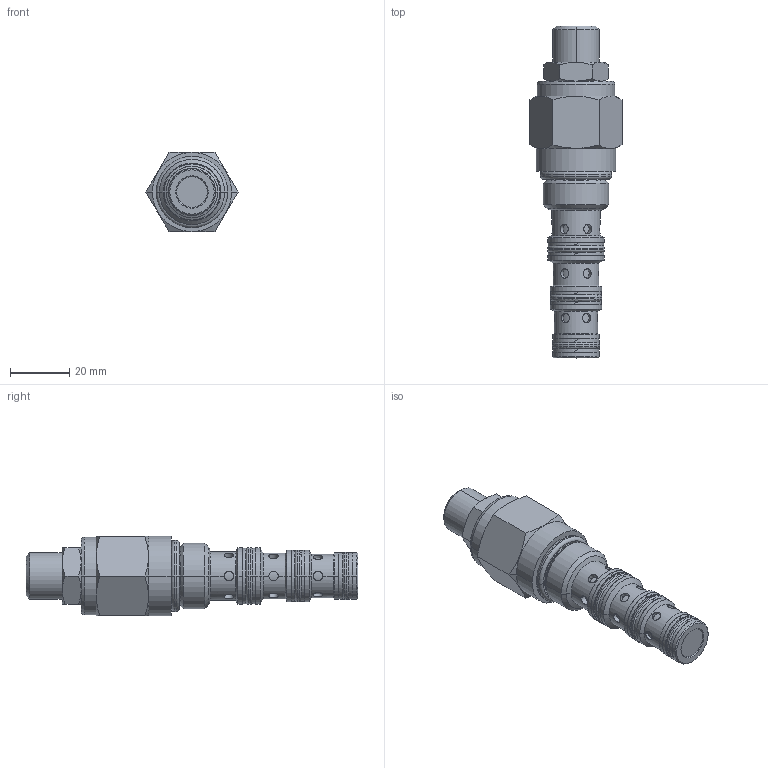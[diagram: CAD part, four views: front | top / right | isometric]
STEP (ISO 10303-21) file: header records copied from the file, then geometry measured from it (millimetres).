
FILE_DESCRIPTION((''),'2;1');
FILE_NAME('DCPS-10-A-S-OUT','2015-12-21T',('torrese'),(''),'PRO/ENGINEER BY PARAMETRIC TECHNOLOGY CORPORATION, 2015070','PRO/ENGINEER BY PARAMETRIC TECHNOLOGY CORPORATION, 2015070','');
FILE_SCHEMA(('CONFIG_CONTROL_DESIGN','GEOMETRIC_VALIDATION_PROPERTIES_MIM'));
Length unit declared in the file: inch
Products named in the file (1): DCPS-10-A-S-OUT
Bounding box: 31.15 x 112.34 x 26.97 mm (x, y, z)
Volume: 37564.7 mm3; surface area: 9552.8 mm2
Topology: 1 solids, 1 shells, 245 faces, 564 edges, 347 vertices
Faces by surface type: cylinder 120, plane 58, cone 47, torus 20
Entity records: 18696 total; most frequent: CARTESIAN_POINT 10364, ORIENTED_EDGE 1128, DIRECTION 1098, PRESENTATION_STYLE_ASSIGNMENT 717, STYLED_ITEM 579, CURVE_STYLE 564, EDGE_CURVE 564, AXIS2_PLACEMENT_3D 447
